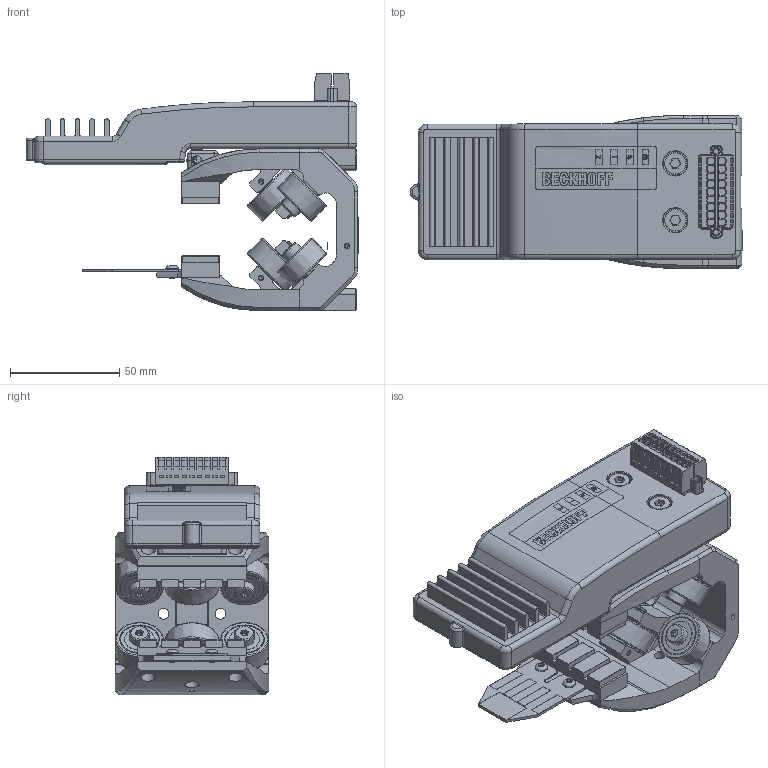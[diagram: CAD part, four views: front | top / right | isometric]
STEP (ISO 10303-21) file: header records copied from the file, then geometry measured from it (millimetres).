
FILE_DESCRIPTION(/* description */ (''),/* implementation_level */ '2;1');
FILE_NAME(/* name */ 'C:\_Vault-Workspace\CAD-Daten\XTS\87_Baukasten\Mover\Energieübertragung\0000013131 AT8300-1200-0100.stp',/* time_stamp */ '2024-02-15T10:33:04+01:00',/* author */ ('AndreasSi'),/* organization */ (''),/* preprocessor_version */ 'ST-DEVELOPER v18.1',/* originating_system */ 'Autodesk Inventor 2022',/* authorisation */ '');
FILE_SCHEMA (('AUTOMOTIVE_DESIGN { 1 0 10303 214 3 1 1 }'));
Products named in the file (4): 282315; 284045; 269404; 271796
Assembly tree (3 placements, depth 2):
  282315
    284045
    269404
    271796
Bounding box: 151.79 x 70 x 108.55 mm (x, y, z)
Volume: 380680.6 mm3; surface area: 115400.1 mm2
Topology: 3 solids, 34 shells, 3784 faces, 9821 edges, 6188 vertices
Faces by surface type: plane 2229, cylinder 930, bspline 192, cone 178, torus 167, sphere 88
Full cylindrical faces by diameter (mm): 2.459 x5, 2.5 x2, 2.55 x2, 2.9 x4, 3 x5, 3.2 x2, 3.242 x4, 3.3 x1, 3.6 x4, 4 x10, 4.6 x4, 4.917 x6, 5 x25, 5.5 x8, 5.7 x2, 6 x2, 6.5 x12, 7 x4, 7.5 x4, 9 x4, 10 x8, 10.6 x4, 11 x2, 12 x4, 12.5 x1, 13.8 x12, 15 x3, 18 x12, 18.2 x12
Entity records: 132421 total; most frequent: CARTESIAN_POINT 37531, ORIENTED_EDGE 19420, DIRECTION 18687, EDGE_CURVE 9710, LINE 6303, VECTOR 6303, AXIS2_PLACEMENT_3D 6192, VERTEX_POINT 6188
